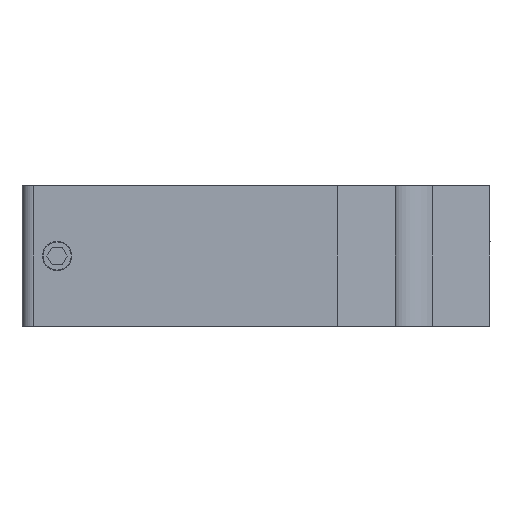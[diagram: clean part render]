
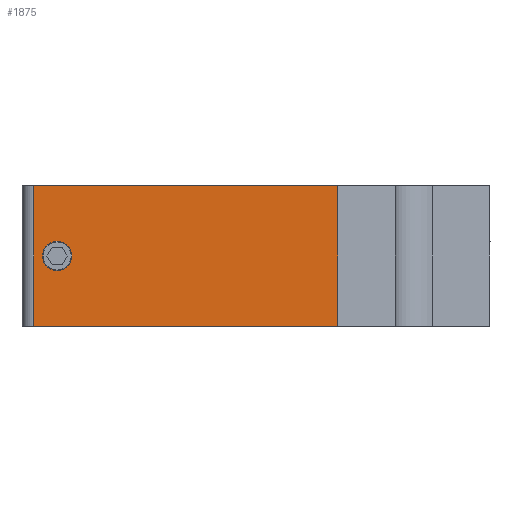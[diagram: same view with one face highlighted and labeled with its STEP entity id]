
A CAD part, front view. The second image highlights one B-rep face of the part: STEP entity #1875.
In plain terms, the highlighted planar face has unit normal (0, -1, 0).
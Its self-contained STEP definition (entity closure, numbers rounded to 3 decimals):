
#125=LINE('',#2906,#295);
#150=LINE('',#3001,#320);
#197=LINE('',#3100,#367);
#211=LINE('',#3173,#381);
#295=VECTOR('',#2342,10.);
#320=VECTOR('',#2423,10.);
#367=VECTOR('',#2514,10.);
#381=VECTOR('',#2568,10.);
#452=PLANE('',#2066);
#477=FACE_BOUND('',#695,.T.);
#571=FACE_OUTER_BOUND('',#694,.T.);
#694=EDGE_LOOP('',(#1639,#1640,#1641,#1642));
#695=EDGE_LOOP('',(#1643));
#771=CIRCLE('',#2063,1.25);
#861=VERTEX_POINT('',#2903);
#862=VERTEX_POINT('',#2905);
#903=VERTEX_POINT('',#2998);
#904=VERTEX_POINT('',#3000);
#938=VERTEX_POINT('',#3168);
#1064=EDGE_CURVE('',#861,#862,#125,.T.);
#1113=EDGE_CURVE('',#903,#904,#150,.T.);
#1162=EDGE_CURVE('',#862,#903,#197,.T.);
#1178=EDGE_CURVE('',#938,#938,#771,.T.);
#1180=EDGE_CURVE('',#861,#904,#211,.T.);
#1639=ORIENTED_EDGE('',*,*,#1162,.F.);
#1640=ORIENTED_EDGE('',*,*,#1064,.F.);
#1641=ORIENTED_EDGE('',*,*,#1180,.T.);
#1642=ORIENTED_EDGE('',*,*,#1113,.F.);
#1643=ORIENTED_EDGE('',*,*,#1178,.T.);
#1875=ADVANCED_FACE('',(#571,#477),#452,.T.);
#2063=AXIS2_PLACEMENT_3D('',#3169,#2561,#2562);
#2066=AXIS2_PLACEMENT_3D('',#3174,#2569,#2570);
#2342=DIRECTION('',(-1.,0.,0.));
#2423=DIRECTION('',(1.,0.,0.));
#2514=DIRECTION('',(0.,0.,1.));
#2561=DIRECTION('center_axis',(0.,1.,0.));
#2562=DIRECTION('ref_axis',(1.,0.,0.));
#2568=DIRECTION('',(0.,0.,1.));
#2569=DIRECTION('center_axis',(0.,-1.,0.));
#2570=DIRECTION('ref_axis',(1.,0.,0.));
#2903=CARTESIAN_POINT('',(7.,-20.,0.));
#2905=CARTESIAN_POINT('',(-19.,-20.,0.));
#2906=CARTESIAN_POINT('',(20.,-20.,0.));
#2998=CARTESIAN_POINT('',(-19.,-20.,12.));
#3000=CARTESIAN_POINT('',(7.,-20.,12.));
#3001=CARTESIAN_POINT('',(20.,-20.,12.));
#3100=CARTESIAN_POINT('',(-19.,-20.,0.));
#3168=CARTESIAN_POINT('',(-15.75,-20.,6.));
#3169=CARTESIAN_POINT('Origin',(-17.,-20.,6.));
#3173=CARTESIAN_POINT('',(7.,-20.,6.));
#3174=CARTESIAN_POINT('Origin',(-20.,-20.,0.));
